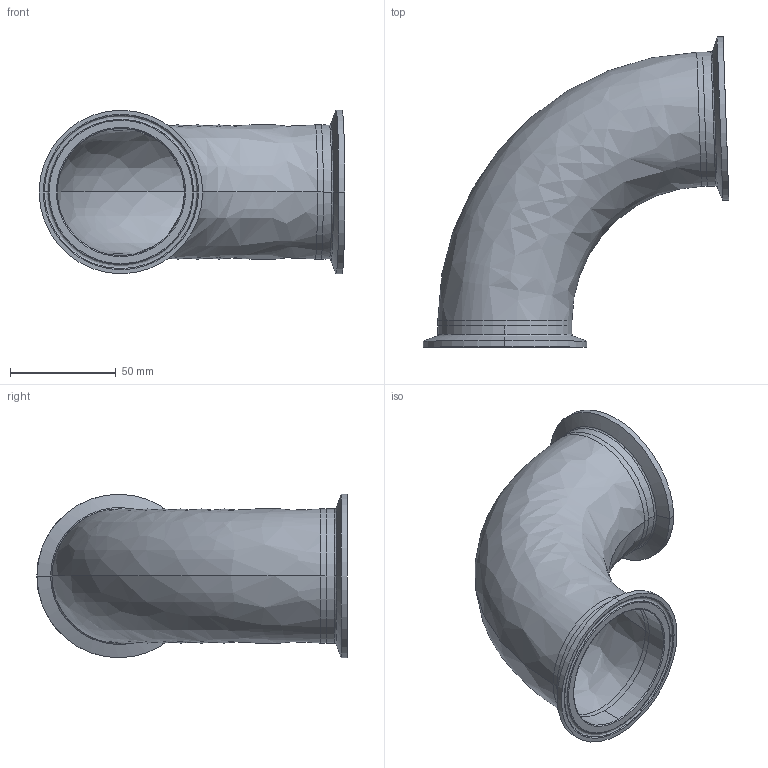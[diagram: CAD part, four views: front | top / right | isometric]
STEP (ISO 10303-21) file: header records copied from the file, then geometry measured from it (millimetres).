
FILE_DESCRIPTION (( 'STEP AP214' ), '1' );
FILE_NAME ('TEG2C886L2.5-...STEP', '2016-05-22T09:23:13', ( 'eran' ), ( '' ), 'SwSTEP 2.0', 'SolidWorks 2016', '' );
FILE_SCHEMA (( 'AUTOMOTIVE_DESIGN' ));
Length unit declared in the file: millimetre
Products named in the file (1): TEG2C886L2.5-..
Bounding box: 144.7 x 146.87 x 77.39 mm (x, y, z)
Volume: 66960.3 mm3; surface area: 74308.5 mm2
Topology: 3 solids, 3 shells, 64 faces, 156 edges, 100 vertices
Faces by surface type: bspline 24, cylinder 20, cone 12, plane 8
Entity records: 3263 total; most frequent: CARTESIAN_POINT 1707, DIRECTION 338, ORIENTED_EDGE 312, EDGE_CURVE 156, AXIS2_PLACEMENT_3D 153, CIRCLE 112, VERTEX_POINT 100, EDGE_LOOP 72
